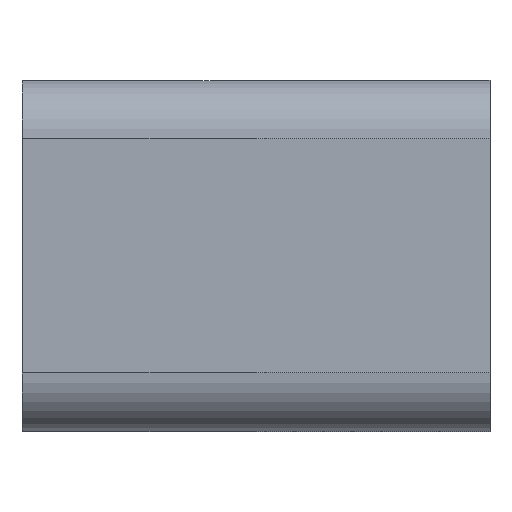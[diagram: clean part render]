
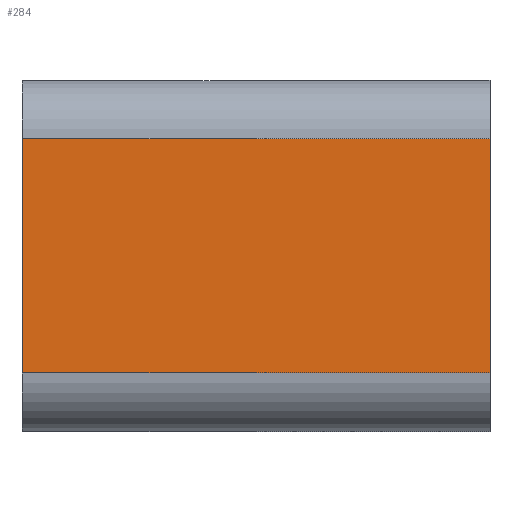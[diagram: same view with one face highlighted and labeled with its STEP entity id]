
A CAD part, left-side view. The second image highlights one B-rep face of the part: STEP entity #284.
In plain terms, the highlighted planar face has unit normal (-1, 0, 0).
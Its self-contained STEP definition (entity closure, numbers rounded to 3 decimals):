
#68 = EDGE_CURVE ( 'NONE', #469, #612, #375, .T. ) ;
#77 = LINE ( 'NONE', #196, #89 ) ;
#89 = VECTOR ( 'NONE', #348, 1000. ) ;
#109 = LINE ( 'NONE', #552, #117 ) ;
#117 = VECTOR ( 'NONE', #272, 1000. ) ;
#129 = LINE ( 'NONE', #482, #143 ) ;
#143 = VECTOR ( 'NONE', #493, 1000. ) ;
#159 = CARTESIAN_POINT ( 'NONE',  ( -32.255, -5.186, 10. ) ) ;
#196 = CARTESIAN_POINT ( 'NONE',  ( -32.255, 2.814, 10. ) ) ;
#200 = FACE_OUTER_BOUND ( 'NONE', #281, .T. ) ;
#220 = CARTESIAN_POINT ( 'NONE',  ( -32.255, 10.814, 2. ) ) ;
#272 = DIRECTION ( 'NONE',  ( 0., 0., 1. ) ) ;
#281 = EDGE_LOOP ( 'NONE', ( #591, #318, #560, #428 ) ) ;
#284 = ADVANCED_FACE ( 'NONE', ( #200 ), #402, .T. ) ;
#318 = ORIENTED_EDGE ( 'NONE', *, *, #398, .T. ) ;
#348 = DIRECTION ( 'NONE',  ( 0., 1., 0. ) ) ;
#364 = AXIS2_PLACEMENT_3D ( 'NONE', #448, #433, #463 ) ;
#375 = LINE ( 'NONE', #565, #514 ) ;
#398 = EDGE_CURVE ( 'NONE', #469, #480, #77, .T. ) ;
#402 = PLANE ( 'NONE',  #364 ) ;
#428 = ORIENTED_EDGE ( 'NONE', *, *, #596, .T. ) ;
#433 = DIRECTION ( 'NONE',  ( -1., 0., 0. ) ) ;
#448 = CARTESIAN_POINT ( 'NONE',  ( -32.255, -5.186, 2. ) ) ;
#463 = DIRECTION ( 'NONE',  ( 0., 0., 1. ) ) ;
#469 = VERTEX_POINT ( 'NONE', #159 ) ;
#473 = EDGE_CURVE ( 'NONE', #487, #480, #109, .T. ) ;
#474 = CARTESIAN_POINT ( 'NONE',  ( -32.255, 10.814, 10. ) ) ;
#480 = VERTEX_POINT ( 'NONE', #474 ) ;
#482 = CARTESIAN_POINT ( 'NONE',  ( -32.255, 2.814, 2. ) ) ;
#487 = VERTEX_POINT ( 'NONE', #220 ) ;
#493 = DIRECTION ( 'NONE',  ( 0., -1., 0. ) ) ;
#514 = VECTOR ( 'NONE', #570, 1000. ) ;
#552 = CARTESIAN_POINT ( 'NONE',  ( -32.255, 10.814, 6. ) ) ;
#560 = ORIENTED_EDGE ( 'NONE', *, *, #473, .F. ) ;
#565 = CARTESIAN_POINT ( 'NONE',  ( -32.255, -5.186, 6. ) ) ;
#570 = DIRECTION ( 'NONE',  ( 0., 0., -1. ) ) ;
#591 = ORIENTED_EDGE ( 'NONE', *, *, #68, .F. ) ;
#596 = EDGE_CURVE ( 'NONE', #487, #612, #129, .T. ) ;
#612 = VERTEX_POINT ( 'NONE', #653 ) ;
#653 = CARTESIAN_POINT ( 'NONE',  ( -32.255, -5.186, 2. ) ) ;
